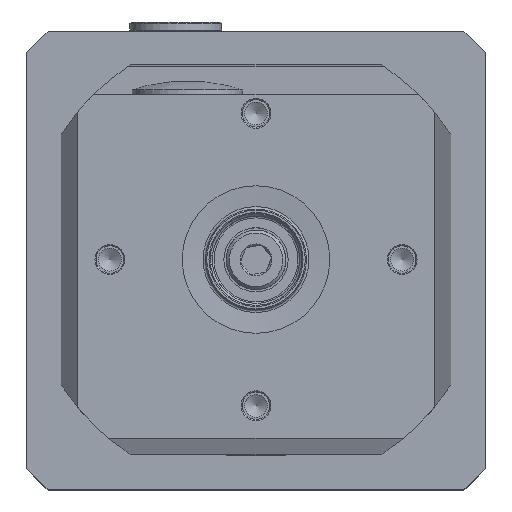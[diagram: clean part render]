
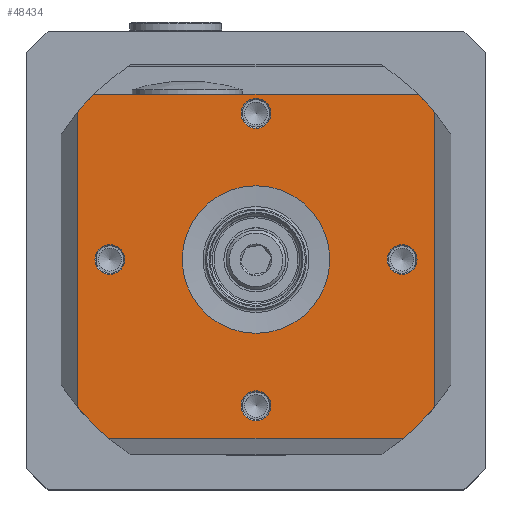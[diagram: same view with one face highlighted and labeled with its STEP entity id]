
A CAD part, top view. The second image highlights one B-rep face of the part: STEP entity #48434.
In plain terms, the highlighted planar face has unit normal (0, 0, 1).
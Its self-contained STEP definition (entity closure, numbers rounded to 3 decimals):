
#156 = CARTESIAN_POINT ( 'NONE',  ( 3.25, -31.877, 33. ) ) ;
#304 = CARTESIAN_POINT ( 'NONE',  ( -39., -32.082, 33. ) ) ;
#469 = ORIENTED_EDGE ( 'NONE', *, *, #11300, .F. ) ;
#963 = DIRECTION ( 'NONE',  ( 0., 0., -1. ) ) ;
#1389 = CARTESIAN_POINT ( 'NONE',  ( 0., 0., 33. ) ) ;
#1489 = CARTESIAN_POINT ( 'NONE',  ( 0., 0., 33. ) ) ;
#3909 = VECTOR ( 'NONE', #89854, 1000. ) ;
#4316 = CARTESIAN_POINT ( 'NONE',  ( 3.25, 31.877, 33. ) ) ;
#5524 = CIRCLE ( 'NONE', #20690, 3.25 ) ;
#6387 = EDGE_CURVE ( 'NONE', #10109, #95770, #51202, .T. ) ;
#6529 = EDGE_CURVE ( 'NONE', #58306, #58306, #90435, .T. ) ;
#6982 = VERTEX_POINT ( 'NONE', #61984 ) ;
#7251 = DIRECTION ( 'NONE',  ( -1., 0., 0. ) ) ;
#7300 = DIRECTION ( 'NONE',  ( 1., 0., 0. ) ) ;
#8796 = EDGE_CURVE ( 'NONE', #50893, #50893, #92153, .T. ) ;
#9110 = CARTESIAN_POINT ( 'NONE',  ( -28.627, 0., 33. ) ) ;
#9937 = CARTESIAN_POINT ( 'NONE',  ( 50.5, -39., 33. ) ) ;
#10109 = VERTEX_POINT ( 'NONE', #39622 ) ;
#10597 = DIRECTION ( 'NONE',  ( 0., 1., 0. ) ) ;
#11300 = EDGE_CURVE ( 'NONE', #72264, #6982, #27146, .T. ) ;
#14052 = EDGE_CURVE ( 'NONE', #75216, #75216, #5524, .T. ) ;
#14437 = CIRCLE ( 'NONE', #48225, 3.25 ) ;
#15422 = CIRCLE ( 'NONE', #42369, 50.5 ) ;
#15765 = ORIENTED_EDGE ( 'NONE', *, *, #6529, .F. ) ;
#18796 = ORIENTED_EDGE ( 'NONE', *, *, #34178, .F. ) ;
#19792 = VERTEX_POINT ( 'NONE', #38698 ) ;
#20273 = PLANE ( 'NONE',  #62477 ) ;
#20690 = AXIS2_PLACEMENT_3D ( 'NONE', #39693, #32303, #88950 ) ;
#24280 = ORIENTED_EDGE ( 'NONE', *, *, #6387, .F. ) ;
#24945 = DIRECTION ( 'NONE',  ( -1., 0., 0. ) ) ;
#25879 = CIRCLE ( 'NONE', #79945, 50.5 ) ;
#26048 = ORIENTED_EDGE ( 'NONE', *, *, #95586, .F. ) ;
#27146 = CIRCLE ( 'NONE', #50795, 50.5 ) ;
#27494 = CARTESIAN_POINT ( 'NONE',  ( -16.094, 0., 33. ) ) ;
#29578 = AXIS2_PLACEMENT_3D ( 'NONE', #97668, #79672, #104073 ) ;
#29785 = FACE_BOUND ( 'NONE', #57534, .T. ) ;
#30623 = CARTESIAN_POINT ( 'NONE',  ( -42.5, 36., 33. ) ) ;
#31810 = AXIS2_PLACEMENT_3D ( 'NONE', #68491, #35709, #100309 ) ;
#32303 = DIRECTION ( 'NONE',  ( 0., 0., 1. ) ) ;
#32658 = LINE ( 'NONE', #42679, #3909 ) ;
#33217 = DIRECTION ( 'NONE',  ( -1., 0., 0. ) ) ;
#33620 = DIRECTION ( 'NONE',  ( 0., 0., -1. ) ) ;
#34178 = EDGE_CURVE ( 'NONE', #19792, #10109, #25879, .T. ) ;
#34477 = CARTESIAN_POINT ( 'NONE',  ( 31.877, 0., 33. ) ) ;
#35709 = DIRECTION ( 'NONE',  ( 0., 0., -1. ) ) ;
#35938 = CARTESIAN_POINT ( 'NONE',  ( 35.127, 0., 33. ) ) ;
#36430 = EDGE_CURVE ( 'NONE', #49250, #72264, #78734, .T. ) ;
#36666 = VERTEX_POINT ( 'NONE', #60157 ) ;
#37166 = FACE_BOUND ( 'NONE', #73371, .T. ) ;
#38698 = CARTESIAN_POINT ( 'NONE',  ( 39., -32.082, 33. ) ) ;
#39622 = CARTESIAN_POINT ( 'NONE',  ( 32.082, -39., 33. ) ) ;
#39693 = CARTESIAN_POINT ( 'NONE',  ( 0., 31.877, 33. ) ) ;
#40677 = CARTESIAN_POINT ( 'NONE',  ( -32.082, -39., 33. ) ) ;
#42369 = AXIS2_PLACEMENT_3D ( 'NONE', #65170, #97460, #24945 ) ;
#42679 = CARTESIAN_POINT ( 'NONE',  ( 39., 42.5, 33. ) ) ;
#43268 = ORIENTED_EDGE ( 'NONE', *, *, #8796, .F. ) ;
#45123 = DIRECTION ( 'NONE',  ( 0., 0., 1. ) ) ;
#45717 = EDGE_LOOP ( 'NONE', ( #103009 ) ) ;
#48225 = AXIS2_PLACEMENT_3D ( 'NONE', #34477, #49840, #75215 ) ;
#48434 = ADVANCED_FACE ( 'NONE', ( #69951, #60994, #29785, #62031, #53066, #37166 ), #20273, .T. ) ;
#49250 = VERTEX_POINT ( 'NONE', #55805 ) ;
#49767 = EDGE_LOOP ( 'NONE', ( #15765 ) ) ;
#49840 = DIRECTION ( 'NONE',  ( 0., 0., 1. ) ) ;
#50795 = AXIS2_PLACEMENT_3D ( 'NONE', #94594, #54851, #7251 ) ;
#50893 = VERTEX_POINT ( 'NONE', #156 ) ;
#51202 = LINE ( 'NONE', #9937, #73441 ) ;
#53066 = FACE_OUTER_BOUND ( 'NONE', #95620, .T. ) ;
#53403 = VERTEX_POINT ( 'NONE', #27494 ) ;
#53953 = EDGE_CURVE ( 'NONE', #6982, #19792, #32658, .T. ) ;
#54109 = CARTESIAN_POINT ( 'NONE',  ( 0., 50.5, 33. ) ) ;
#54851 = DIRECTION ( 'NONE',  ( 0., 0., -1. ) ) ;
#55805 = CARTESIAN_POINT ( 'NONE',  ( -35.415, 36., 33. ) ) ;
#57534 = EDGE_LOOP ( 'NONE', ( #43268 ) ) ;
#58306 = VERTEX_POINT ( 'NONE', #9110 ) ;
#59720 = ORIENTED_EDGE ( 'NONE', *, *, #94681, .T. ) ;
#60157 = CARTESIAN_POINT ( 'NONE',  ( -39., 32.082, 33. ) ) ;
#60287 = AXIS2_PLACEMENT_3D ( 'NONE', #1389, #33620, #98208 ) ;
#60994 = FACE_BOUND ( 'NONE', #49767, .T. ) ;
#61655 = AXIS2_PLACEMENT_3D ( 'NONE', #97939, #80972, #89519 ) ;
#61984 = CARTESIAN_POINT ( 'NONE',  ( 39., 32.082, 33. ) ) ;
#62031 = FACE_BOUND ( 'NONE', #74918, .T. ) ;
#62477 = AXIS2_PLACEMENT_3D ( 'NONE', #54109, #45123, #94348 ) ;
#65170 = CARTESIAN_POINT ( 'NONE',  ( 0., 0., 33. ) ) ;
#65222 = VECTOR ( 'NONE', #7300, 1000. ) ;
#67236 = LINE ( 'NONE', #82570, #72832 ) ;
#68491 = CARTESIAN_POINT ( 'NONE',  ( 0., 0., 33. ) ) ;
#68897 = VERTEX_POINT ( 'NONE', #304 ) ;
#68939 = CIRCLE ( 'NONE', #31810, 16.094 ) ;
#69951 = FACE_BOUND ( 'NONE', #45717, .T. ) ;
#70259 = ORIENTED_EDGE ( 'NONE', *, *, #71583, .F. ) ;
#71583 = EDGE_CURVE ( 'NONE', #36666, #49250, #80575, .T. ) ;
#72264 = VERTEX_POINT ( 'NONE', #94687 ) ;
#72832 = VECTOR ( 'NONE', #10597, 1000. ) ;
#73371 = EDGE_LOOP ( 'NONE', ( #59720 ) ) ;
#73441 = VECTOR ( 'NONE', #92999, 1000. ) ;
#74918 = EDGE_LOOP ( 'NONE', ( #26048 ) ) ;
#75215 = DIRECTION ( 'NONE',  ( 1., 0., 0. ) ) ;
#75216 = VERTEX_POINT ( 'NONE', #4316 ) ;
#75780 = EDGE_CURVE ( 'NONE', #95770, #68897, #15422, .T. ) ;
#78734 = LINE ( 'NONE', #30623, #65222 ) ;
#79672 = DIRECTION ( 'NONE',  ( 0., 0., 1. ) ) ;
#79945 = AXIS2_PLACEMENT_3D ( 'NONE', #1489, #963, #33217 ) ;
#80575 = CIRCLE ( 'NONE', #60287, 50.5 ) ;
#80972 = DIRECTION ( 'NONE',  ( 0., 0., 1. ) ) ;
#82570 = CARTESIAN_POINT ( 'NONE',  ( -39., -50.5, 33. ) ) ;
#83518 = ORIENTED_EDGE ( 'NONE', *, *, #86032, .F. ) ;
#84638 = VERTEX_POINT ( 'NONE', #35938 ) ;
#85079 = ORIENTED_EDGE ( 'NONE', *, *, #36430, .F. ) ;
#86032 = EDGE_CURVE ( 'NONE', #68897, #36666, #67236, .T. ) ;
#88950 = DIRECTION ( 'NONE',  ( 1., 0., 0. ) ) ;
#89519 = DIRECTION ( 'NONE',  ( 1., 0., 0. ) ) ;
#89854 = DIRECTION ( 'NONE',  ( 0., -1., 0. ) ) ;
#90435 = CIRCLE ( 'NONE', #29578, 3.25 ) ;
#92153 = CIRCLE ( 'NONE', #61655, 3.25 ) ;
#92999 = DIRECTION ( 'NONE',  ( -1., 0., 0. ) ) ;
#94348 = DIRECTION ( 'NONE',  ( 1., 0., 0. ) ) ;
#94594 = CARTESIAN_POINT ( 'NONE',  ( 0., 0., 33. ) ) ;
#94681 = EDGE_CURVE ( 'NONE', #53403, #53403, #68939, .T. ) ;
#94687 = CARTESIAN_POINT ( 'NONE',  ( 35.415, 36., 33. ) ) ;
#95586 = EDGE_CURVE ( 'NONE', #84638, #84638, #14437, .T. ) ;
#95620 = EDGE_LOOP ( 'NONE', ( #85079, #70259, #83518, #100600, #24280, #18796, #97500, #469 ) ) ;
#95770 = VERTEX_POINT ( 'NONE', #40677 ) ;
#97460 = DIRECTION ( 'NONE',  ( 0., 0., -1. ) ) ;
#97500 = ORIENTED_EDGE ( 'NONE', *, *, #53953, .F. ) ;
#97668 = CARTESIAN_POINT ( 'NONE',  ( -31.877, 0., 33. ) ) ;
#97939 = CARTESIAN_POINT ( 'NONE',  ( 0., -31.877, 33. ) ) ;
#98208 = DIRECTION ( 'NONE',  ( -1., 0., 0. ) ) ;
#100309 = DIRECTION ( 'NONE',  ( -1., 0., 0. ) ) ;
#100600 = ORIENTED_EDGE ( 'NONE', *, *, #75780, .F. ) ;
#103009 = ORIENTED_EDGE ( 'NONE', *, *, #14052, .F. ) ;
#104073 = DIRECTION ( 'NONE',  ( 1., 0., 0. ) ) ;
